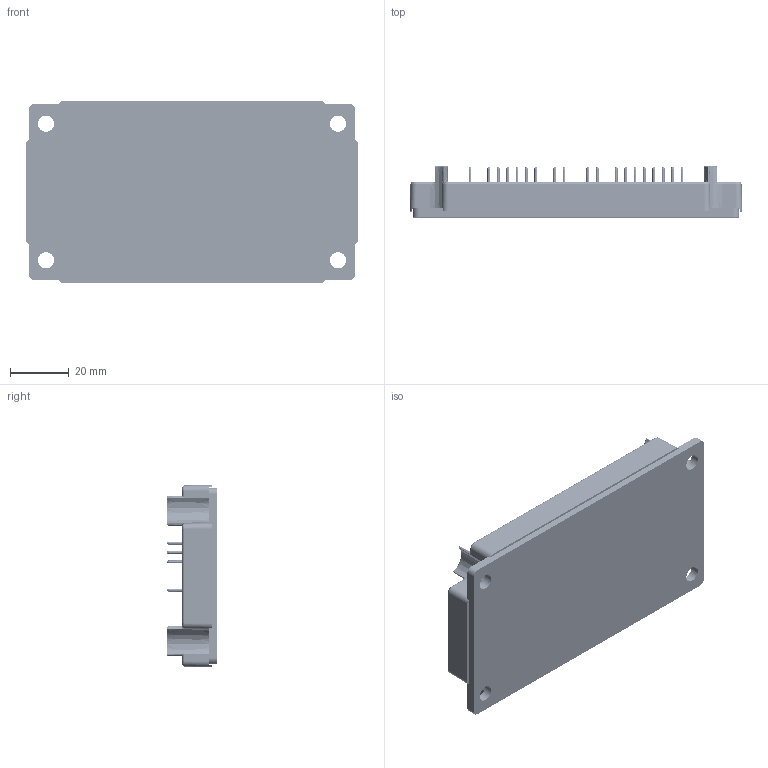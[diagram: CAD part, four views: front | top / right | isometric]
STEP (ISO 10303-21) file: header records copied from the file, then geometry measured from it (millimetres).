
FILE_DESCRIPTION((''),'2;1');
FILE_NAME('AMG450L65P4S5RC-V1-R1_ASM','2024-06-04T16:47:26',('yanbing.guo'),(''),'CREO PARAMETRIC BY PTC INC, 2022073','CREO PARAMETRIC BY PTC INC, 2022073','');
FILE_SCHEMA(('CONFIG_CONTROL_DESIGN','SHAPE_APPEARANCE_LAYERS_GROUPS'));
Products named in the file (6): COPPER-BASE-4HOLES; PIN; DBC00_ASM; AD-MID-COVER-4HOLES; AD-TOP-COVER; AMG450L65P4S5RC-V1-R1_ASM
Assembly tree (54 placements, depth 3):
  AMG450L65P4S5RC-V1-R1_ASM
    DBC00_ASM
      COPPER-BASE-4HOLES
      PIN  x50
    AD-MID-COVER-4HOLES
    AD-TOP-COVER
Bounding box: 113 x 17.3 x 62 mm (x, y, z)
Volume: 39925.4 mm3; surface area: 42918 mm2
Topology: 53 solids, 53 shells, 9945 faces, 24268 edges, 14421 vertices
Faces by surface type: cone 3704, plane 3314, torus 1588, cylinder 828, bspline 456, sphere 28, extrusion 27
Entity records: 245370 total; most frequent: CARTESIAN_POINT 60204, DIRECTION 42265, ORIENTED_EDGE 36688, EDGE_CURVE 18344, AXIS2_PLACEMENT_3D 17662, VERTEX_POINT 10989, CIRCLE 9902, EDGE_LOOP 8831
